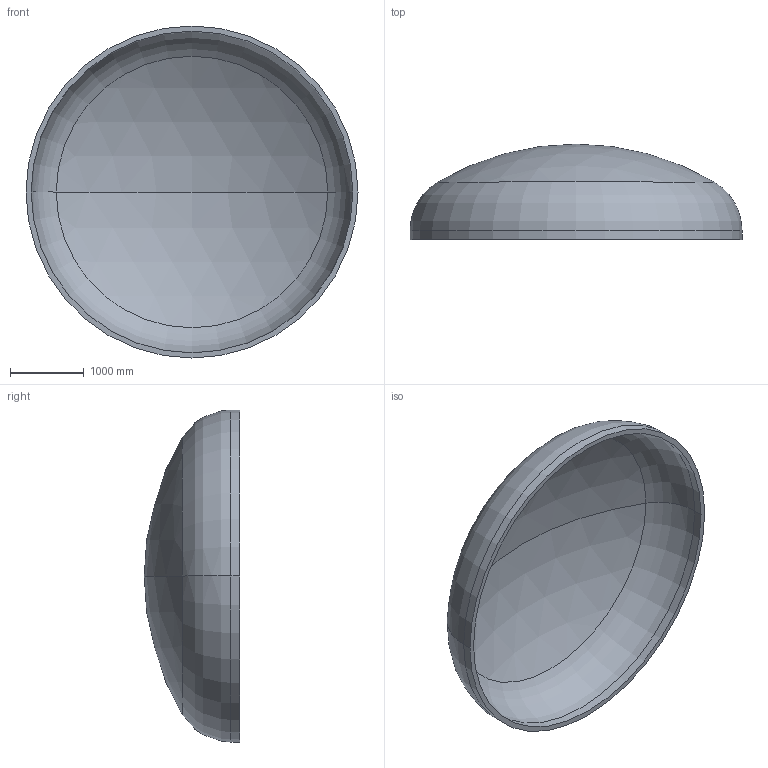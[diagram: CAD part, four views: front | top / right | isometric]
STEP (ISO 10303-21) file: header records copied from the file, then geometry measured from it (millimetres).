
FILE_DESCRIPTION (( 'STEP AP203' ), '1' );
FILE_NAME ('DIN 28013 Korbbogenform_-_Boden DIN 28013 - 4500 x 120 - I - s=70.step', '2016-07-01T23:39:39', ( '' ), ( '' ), 'SwSTEP 2.0', 'SolidWorks 2013', '' );
FILE_SCHEMA (( 'CONFIG_CONTROL_DESIGN' ));
Length unit declared in the file: millimetre
Products named in the file (1): DIN 28013 Korbbogenform_-_Boden DIN 28013 - 4500 x 120 - I - s=70
Bounding box: 4500 x 1293.24 x 4500 mm (x, y, z)
Volume: 1628330534.1 mm3; surface area: 47508183.1 mm2
Topology: 1 solids, 1 shells, 13 faces, 24 edges, 14 vertices
Faces by surface type: torus 4, cylinder 4, sphere 4, plane 1
Entity records: 407 total; most frequent: DIRECTION 72, CARTESIAN_POINT 52, ORIENTED_EDGE 48, AXIS2_PLACEMENT_3D 34, EDGE_CURVE 24, CIRCLE 20, EDGE_LOOP 14, VERTEX_POINT 14
